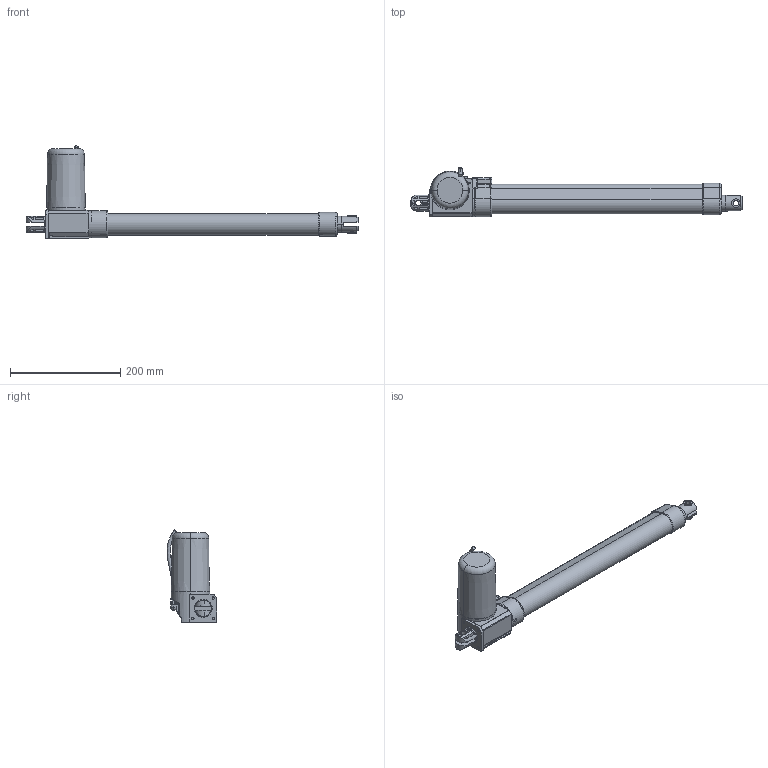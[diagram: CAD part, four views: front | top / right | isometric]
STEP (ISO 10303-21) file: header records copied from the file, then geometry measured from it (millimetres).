
FILE_DESCRIPTION((''),'2;1');
FILE_NAME('JC35DN-S173L400_ASM','2022-11-03T10:08:05',('108838'),('捷昌驱动'),'CREO PARAMETRIC BY PTC INC, 2018500','CREO PARAMETRIC BY PTC INC, 2018500','');
FILE_SCHEMA(('CONFIG_CONTROL_DESIGN'));
Length unit declared in the file: millimetre
Products named in the file (11): PRT0009_2_1_1_1_1_1; PRT0012_2_1_1_1_1_1; PRT0013_2_1_1_1_1_1; PRT0014_2_1_1_1_1_1; 04_17_1_1_1_1_1; DUANGAI_2_1_1_1_1_1; JC35DN05_14_1_1_1_1_1; 02_2_1_1_1_1_1; DXINGDIANYUANXIAN_3_1_1_1_1_1_1; DT_1_1_1_1; JC35DN-S173L400_ASM
Assembly tree (11 placements, depth 2):
  JC35DN-S173L400_ASM
    PRT0009_2_1_1_1_1_1
    PRT0012_2_1_1_1_1_1
    PRT0013_2_1_1_1_1_1
    PRT0014_2_1_1_1_1_1
    04_17_1_1_1_1_1
    DUANGAI_2_1_1_1_1_1
    JC35DN05_14_1_1_1_1_1
    02_2_1_1_1_1_1
    DXINGDIANYUANXIAN_3_1_1_1_1_1_1
    DT_1_1_1_1  x2
Bounding box: 601.1 x 90.23 x 166.9 mm (x, y, z)
Volume: 1767299.3 mm3; surface area: 220753.2 mm2
Topology: 10 solids, 12 shells, 537 faces, 1432 edges, 945 vertices
Faces by surface type: plane 244, cylinder 210, torus 35, bspline 26, sphere 11, cone 10, extrusion 1
Entity records: 19193 total; most frequent: CARTESIAN_POINT 5659, DIRECTION 2826, ORIENTED_EDGE 2792, EDGE_CURVE 1398, AXIS2_PLACEMENT_3D 1081, VERTEX_POINT 931, VECTOR 664, LINE 663
